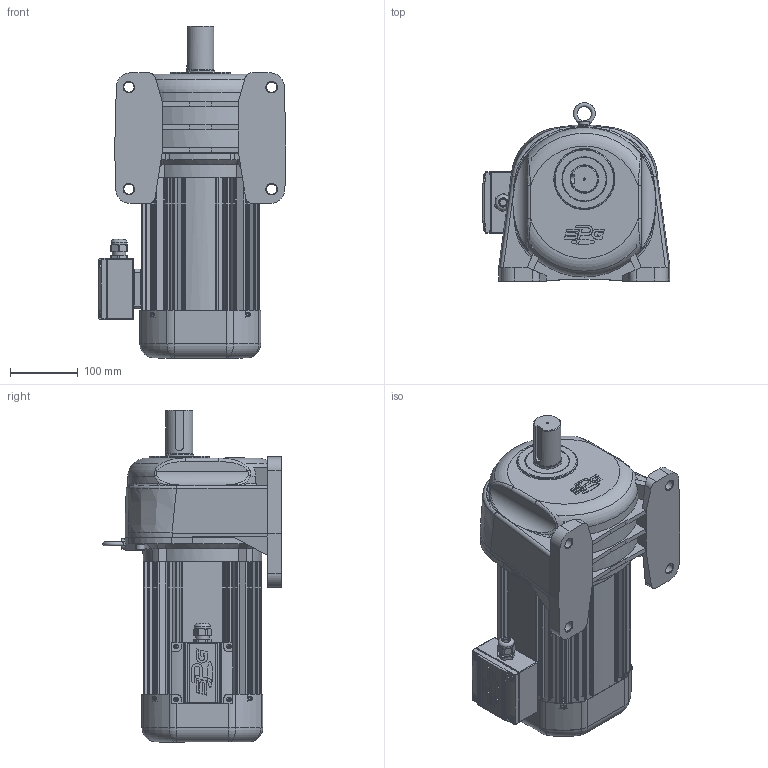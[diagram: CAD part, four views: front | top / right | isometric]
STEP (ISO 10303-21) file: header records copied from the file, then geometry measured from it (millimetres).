
FILE_DESCRIPTION(/* description */ (''),/* implementation_level */ '2;1');
FILE_NAME(/* name */ 'Z:\동력 3D 파일\PAL40-(30~100)-PA(B)150[ ]L_(3D).stp',/* time_stamp */ '2021-07-22T16:56:39+09:00',/* author */ ('jaebok'),/* organization */ (''),/* preprocessor_version */ 'ST-DEVELOPER v18.1',/* originating_system */ 'Autodesk Inventor 2022',/* authorisation */ '');
FILE_SCHEMA (('AUTOMOTIVE_DESIGN { 1 0 10303 214 3 1 1 }'));
Length unit declared in the file: millimetre
Products named in the file (1): 부품37
Bounding box: 276.5 x 262.62 x 488.5 mm (x, y, z)
Volume: 4480121.7 mm3; surface area: 1023017.6 mm2
Topology: 1 solids, 34 shells, 2071 faces, 5331 edges, 3343 vertices
Faces by surface type: plane 873, cylinder 689, bspline 272, cone 122, torus 95, sphere 20
Full cylindrical faces by diameter (mm): 2 x2, 3.25 x1, 3.6 x4, 4 x22, 4.917 x4, 5 x17, 6 x1, 6.647 x1, 6.8 x4, 7 x13, 8 x5, 8.8 x4, 10 x1, 12 x4, 12.5 x1, 13 x4, 15 x5, 20 x2, 20.6 x1, 21 x1, 23.6 x1, 25 x1, 26 x1, 27.8 x1, 28 x1, 36 x1, 38 x1, 39.8 x2, 40 x2, 41.8 x1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
Entity records: 75919 total; most frequent: CARTESIAN_POINT 24384, ORIENTED_EDGE 10528, DIRECTION 10164, EDGE_CURVE 5264, AXIS2_PLACEMENT_3D 3882, VERTEX_POINT 3342, LINE 2400, VECTOR 2400
